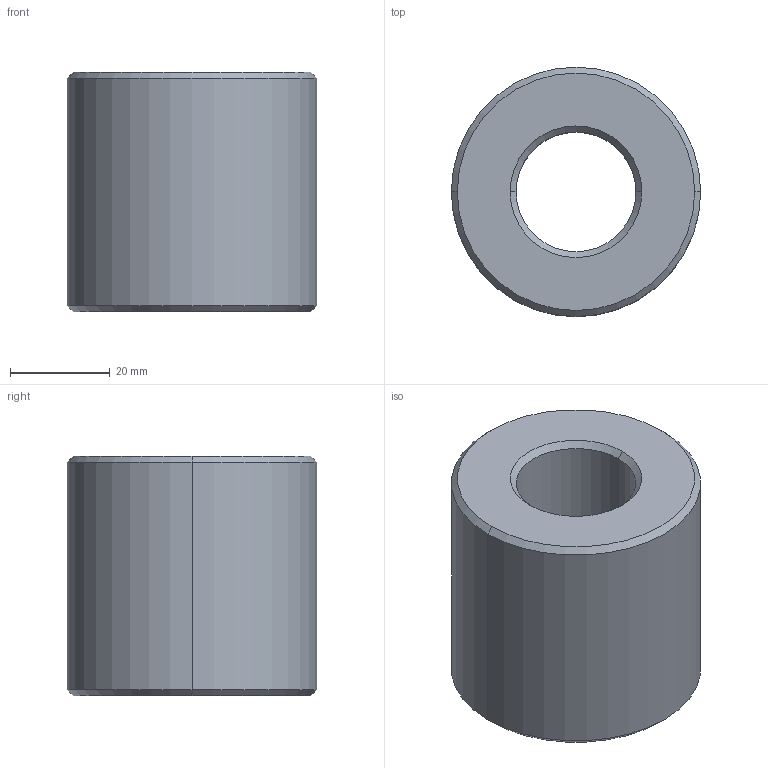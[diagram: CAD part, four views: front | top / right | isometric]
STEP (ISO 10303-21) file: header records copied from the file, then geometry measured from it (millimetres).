
FILE_DESCRIPTION (( 'STEP AP203' ), '1' );
FILE_NAME ('L1330.R24-10.step', '2024-10-24T09:27:26', ( '' ), ( '' ), 'SwSTEP 2.0', 'SolidWorks 2019', '' );
FILE_SCHEMA (( 'CONFIG_CONTROL_DESIGN' ));
Length unit declared in the file: millimetre
Products named in the file (1): L1330.R24-10
Bounding box: 50 x 50 x 48 mm (x, y, z)
Volume: 72198.3 mm3; surface area: 13854.3 mm2
Topology: 1 solids, 1 shells, 14 faces, 28 edges, 16 vertices
Faces by surface type: cone 8, cylinder 4, plane 2
Entity records: 445 total; most frequent: DIRECTION 74, CARTESIAN_POINT 59, ORIENTED_EDGE 56, AXIS2_PLACEMENT_3D 31, EDGE_CURVE 28, CIRCLE 16, VERTEX_POINT 16, EDGE_LOOP 16
